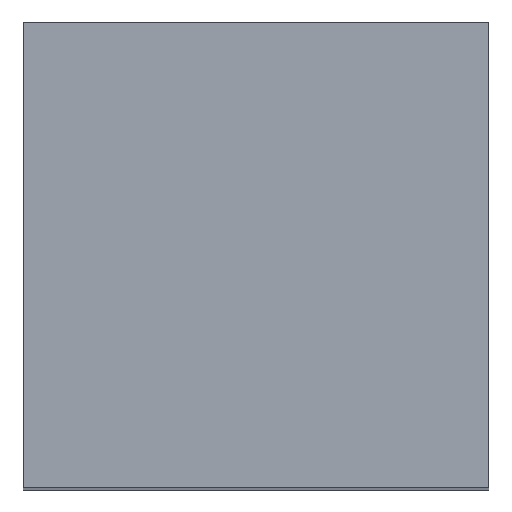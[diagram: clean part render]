
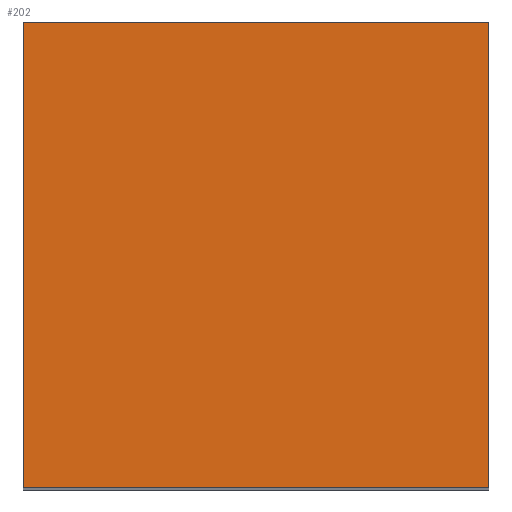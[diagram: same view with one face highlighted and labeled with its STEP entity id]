
A CAD part, top view. The second image highlights one B-rep face of the part: STEP entity #202.
In plain terms, the highlighted planar face has unit normal (0, 0, 1).
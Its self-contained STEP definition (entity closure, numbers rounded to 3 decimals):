
#40=FACE_OUTER_BOUND('',#54,.T.);
#54=EDGE_LOOP('',(#144,#145,#146,#147));
#72=LINE('',#318,#88);
#73=LINE('',#320,#89);
#74=LINE('',#322,#90);
#75=LINE('',#323,#91);
#88=VECTOR('',#256,10.);
#89=VECTOR('',#257,10.);
#90=VECTOR('',#258,10.);
#91=VECTOR('',#259,10.);
#104=VERTEX_POINT('',#316);
#105=VERTEX_POINT('',#317);
#106=VERTEX_POINT('',#319);
#107=VERTEX_POINT('',#321);
#120=EDGE_CURVE('',#104,#105,#72,.T.);
#121=EDGE_CURVE('',#106,#104,#73,.T.);
#122=EDGE_CURVE('',#107,#106,#74,.T.);
#123=EDGE_CURVE('',#105,#107,#75,.T.);
#144=ORIENTED_EDGE('',*,*,#120,.F.);
#145=ORIENTED_EDGE('',*,*,#121,.F.);
#146=ORIENTED_EDGE('',*,*,#122,.F.);
#147=ORIENTED_EDGE('',*,*,#123,.F.);
#192=PLANE('',#230);
#202=ADVANCED_FACE('',(#40),#192,.F.);
#230=AXIS2_PLACEMENT_3D('',#315,#254,#255);
#254=DIRECTION('center_axis',(0.,0.,-1.));
#255=DIRECTION('ref_axis',(-1.,0.,0.));
#256=DIRECTION('',(-1.,0.,0.));
#257=DIRECTION('',(0.,-1.,0.));
#258=DIRECTION('',(1.,0.,0.));
#259=DIRECTION('',(0.,1.,0.));
#315=CARTESIAN_POINT('Origin',(100.,100.,715.));
#316=CARTESIAN_POINT('',(200.,0.,715.));
#317=CARTESIAN_POINT('',(0.,0.,715.));
#318=CARTESIAN_POINT('',(50.,0.,715.));
#319=CARTESIAN_POINT('',(200.,200.,715.));
#320=CARTESIAN_POINT('',(200.,50.,715.));
#321=CARTESIAN_POINT('',(0.,200.,715.));
#322=CARTESIAN_POINT('',(150.,200.,715.));
#323=CARTESIAN_POINT('',(0.,150.,715.));
